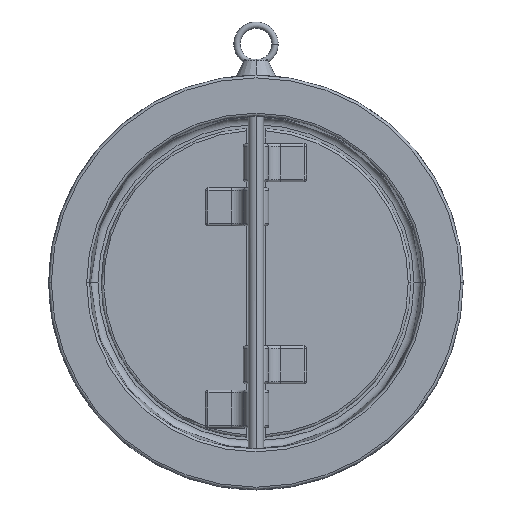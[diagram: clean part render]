
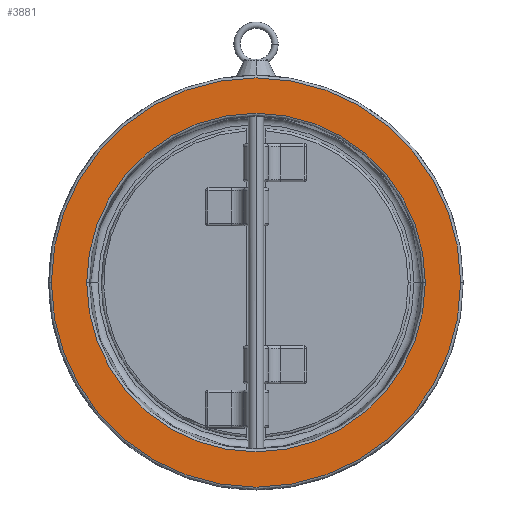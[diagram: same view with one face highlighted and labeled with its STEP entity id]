
A CAD part, top view. The second image highlights one B-rep face of the part: STEP entity #3881.
In plain terms, the highlighted planar face has unit normal (0, 0, 1).
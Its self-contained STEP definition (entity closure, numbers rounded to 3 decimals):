
#584 = EDGE_CURVE ( 'NONE', #1744, #7033, #2930, .T. ) ;
#727 = ORIENTED_EDGE ( 'NONE', *, *, #3625, .T. ) ;
#1277 = CIRCLE ( 'NONE', #5854, 162. ) ;
#1574 = DIRECTION ( 'NONE',  ( 0., 0., -1. ) ) ;
#1744 = VERTEX_POINT ( 'NONE', #11074 ) ;
#1978 = CARTESIAN_POINT ( 'NONE',  ( 0., 0., 58.734 ) ) ;
#2837 = CIRCLE ( 'NONE', #13202, 162. ) ;
#2930 = CIRCLE ( 'NONE', #14019, 134.001 ) ;
#3625 = EDGE_CURVE ( 'NONE', #11426, #4067, #1277, .T. ) ;
#3685 = FACE_BOUND ( 'NONE', #12780, .T. ) ;
#3881 = ADVANCED_FACE ( 'NONE', ( #9489, #3685 ), #8437, .T. ) ;
#4067 = VERTEX_POINT ( 'NONE', #7422 ) ;
#4300 = CARTESIAN_POINT ( 'NONE',  ( 134.001, 0., 58.734 ) ) ;
#5302 = AXIS2_PLACEMENT_3D ( 'NONE', #1978, #11033, #9898 ) ;
#5328 = DIRECTION ( 'NONE',  ( 0., 0., 1. ) ) ;
#5401 = CARTESIAN_POINT ( 'NONE',  ( 0., 0., 58.734 ) ) ;
#5667 = EDGE_CURVE ( 'NONE', #7033, #1744, #6997, .T. ) ;
#5854 = AXIS2_PLACEMENT_3D ( 'NONE', #6712, #11168, #8667 ) ;
#6472 = CARTESIAN_POINT ( 'NONE',  ( -162., 0., 58.734 ) ) ;
#6665 = ORIENTED_EDGE ( 'NONE', *, *, #5667, .T. ) ;
#6686 = ORIENTED_EDGE ( 'NONE', *, *, #584, .T. ) ;
#6704 = EDGE_LOOP ( 'NONE', ( #9279, #727 ) ) ;
#6712 = CARTESIAN_POINT ( 'NONE',  ( 0., 0., 58.734 ) ) ;
#6723 = AXIS2_PLACEMENT_3D ( 'NONE', #11837, #14115, #12903 ) ;
#6997 = CIRCLE ( 'NONE', #5302, 134.001 ) ;
#7033 = VERTEX_POINT ( 'NONE', #4300 ) ;
#7422 = CARTESIAN_POINT ( 'NONE',  ( 162., 0., 58.734 ) ) ;
#8437 = PLANE ( 'NONE',  #6723 ) ;
#8667 = DIRECTION ( 'NONE',  ( 1., 0., 0. ) ) ;
#9279 = ORIENTED_EDGE ( 'NONE', *, *, #12229, .T. ) ;
#9489 = FACE_OUTER_BOUND ( 'NONE', #6704, .T. ) ;
#9898 = DIRECTION ( 'NONE',  ( 1., 0., 0. ) ) ;
#10920 = DIRECTION ( 'NONE',  ( 1., 0., 0. ) ) ;
#11033 = DIRECTION ( 'NONE',  ( 0., 0., -1. ) ) ;
#11074 = CARTESIAN_POINT ( 'NONE',  ( -134.001, 0., 58.734 ) ) ;
#11168 = DIRECTION ( 'NONE',  ( 0., 0., 1. ) ) ;
#11426 = VERTEX_POINT ( 'NONE', #6472 ) ;
#11837 = CARTESIAN_POINT ( 'NONE',  ( 0., 0., 58.734 ) ) ;
#12229 = EDGE_CURVE ( 'NONE', #4067, #11426, #2837, .T. ) ;
#12780 = EDGE_LOOP ( 'NONE', ( #6665, #6686 ) ) ;
#12903 = DIRECTION ( 'NONE',  ( 1., 0., 0. ) ) ;
#13202 = AXIS2_PLACEMENT_3D ( 'NONE', #5401, #5328, #10920 ) ;
#14019 = AXIS2_PLACEMENT_3D ( 'NONE', #14481, #1574, #14183 ) ;
#14115 = DIRECTION ( 'NONE',  ( 0., 0., 1. ) ) ;
#14183 = DIRECTION ( 'NONE',  ( 1., 0., 0. ) ) ;
#14481 = CARTESIAN_POINT ( 'NONE',  ( 0., 0., 58.734 ) ) ;
